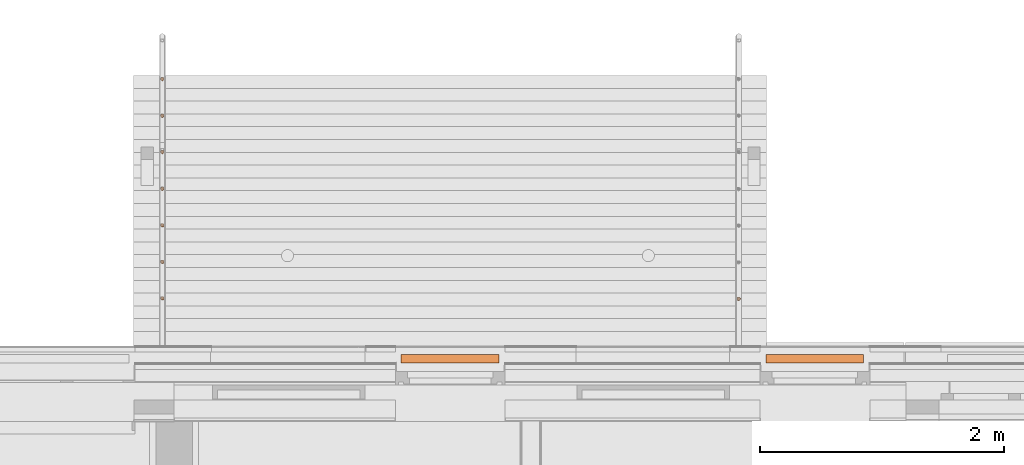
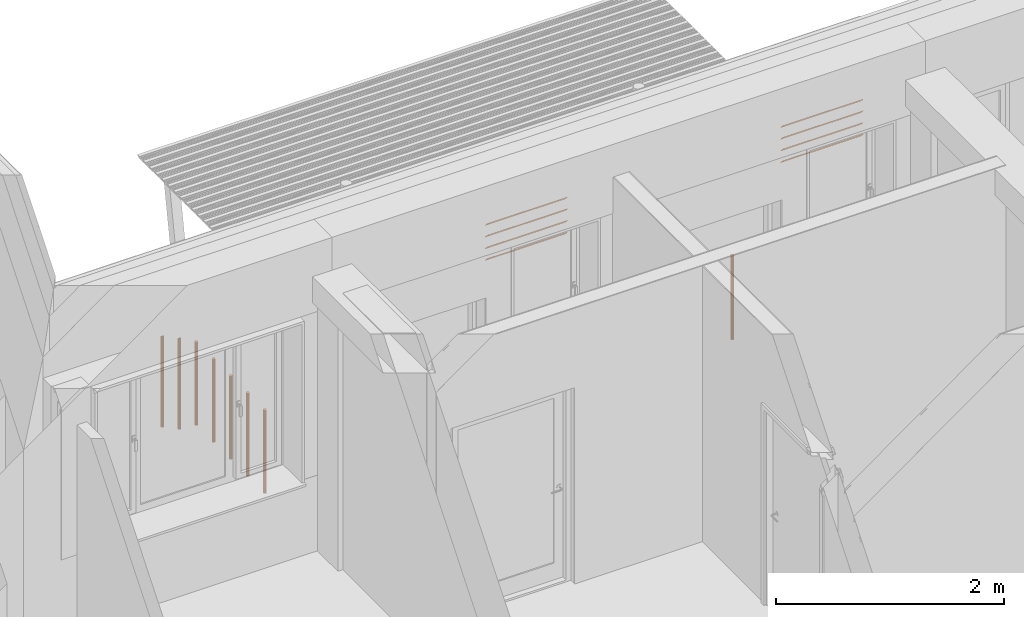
# One storey, part 363 of 418: 10 proxies, 2 elements without a shape of their own.
"""IFC2X3 building model written with IfcOpenShell, lengths in millimetres."""

from ifc_helpers import new_model, entity, si_unit, converted_unit, derived_unit, money_unit, direction, frame, origin_with_axes, place, context, subcontext, project, spatial, faceted_brep, source, transform, mapped, material, type_object, element, aggregate, save


model = new_model("IFC2X3")

# Units and contexts
model_context = context("Model", 3, precision=0.01, world=origin_with_axes(), true_north=direction((0.0, 1.0)))
body_context = subcontext(model_context, "Body", "Model", "MODEL_VIEW")
ifc_project = project(units=[si_unit("LENGTHUNIT", "METRE", prefix="MILLI"), si_unit("AREAUNIT", "SQUARE_METRE"), si_unit("VOLUMEUNIT", "CUBIC_METRE"), converted_unit("PLANEANGLEUNIT", "DEGREE", entity("IfcPlaneAngleMeasure", 0.0174532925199), si_unit("PLANEANGLEUNIT", "RADIAN"), dimensions=[0, 0, 0, 0, 0, 0, 0]), si_unit("SOLIDANGLEUNIT", "STERADIAN"), money_unit("EUR"), converted_unit("TIMEUNIT", "Year", entity("IfcTimeMeasure", 31556926.0), si_unit("TIMEUNIT", "SECOND"), dimensions=[0, 0, 1, 0, 0, 0, 0]), si_unit("MASSUNIT", "GRAM", prefix="KILO"), si_unit("THERMODYNAMICTEMPERATUREUNIT", "DEGREE_CELSIUS"), si_unit("LUMINOUSINTENSITYUNIT", "LUMEN"), si_unit("ENERGYUNIT", "JOULE", prefix="MEGA"), derived_unit("THERMALCONDUCTANCEUNIT", [(si_unit("POWERUNIT", "WATT"), 1), (si_unit("LENGTHUNIT", "METRE"), -1), (si_unit("THERMODYNAMICTEMPERATUREUNIT", "KELVIN"), -1)]), derived_unit("SPECIFICHEATCAPACITYUNIT", [(si_unit("ENERGYUNIT", "JOULE"), 1), (si_unit("MASSUNIT", "GRAM", prefix="KILO"), -1), (si_unit("THERMODYNAMICTEMPERATUREUNIT", "KELVIN"), -1)]), derived_unit("MASSDENSITYUNIT", [(si_unit("MASSUNIT", "GRAM", prefix="KILO"), 1), (si_unit("VOLUMEUNIT", "CUBIC_METRE"), -1)])], contexts=[model_context])

# Site, building, storey
site_placement = place(None, origin_with_axes())
site = spatial("IfcSite", under=ifc_project, at=site_placement, Name="Paldiski mnt 245/1, Tallinn, Harjumaa", CompositionType="COMPLEX")
building_placement = place(site_placement, origin_with_axes())
building = spatial("IfcBuilding", under=site, at=building_placement, Name="RKAS Hoone üldnimetus (kasutust iseloomustav) -> IFC Project Manager -> SOLIBRI", CompositionType="ELEMENT")
storey_placement = place(building_placement, origin_with_axes())
storey = spatial("IfcBuildingStorey", under=building, at=storey_placement, Name="Esimene korrus", CompositionType="ELEMENT", Elevation=0.0)

# Proxies
building_element_proxy_type_1 = type_object("IfcBuildingElementProxyType", Name="Solar Shade Straight 17", PredefinedType="NOTDEFINED")
shared_shape_1 = source(origin_with_axes(), body_context, "Body", "Brep", [
    faceted_brep([(-50.0, -24.0727513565, 78.7867965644), (-850.0, -24.0727513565, 78.7867965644), (-850.0, -34.6793530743, 91.7504208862), (-50.0, -34.6793530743, 91.7504208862), (-50.0, -14.6446609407, 64.6446609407), (-850.0, -14.6446609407, 64.6446609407), (-850.0, -28.7867965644, 74.0727513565), (-850.0, -41.7504208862, 84.6793530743), (-850.0, -65.3206469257, 108.249579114), (-850.0, -75.9272486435, 121.213203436), (-850.0, -85.3553390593, 135.355339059), (-850.0, -71.2132034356, 125.927248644), (-850.0, -58.2495791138, 115.320646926), (-50.0, -58.2495791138, 115.320646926), (-50.0, -71.2132034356, 125.927248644), (-50.0, -85.3553390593, 135.355339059), (-50.0, -75.9272486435, 121.213203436), (-50.0, -65.3206469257, 108.249579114), (-50.0, -41.7504208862, 84.6793530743), (-50.0, -28.7867965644, 74.0727513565)], [[[0, 1, 2, 3]], [[4, 5, 1, 0]], [[1, 5, 6, 7, 8, 9, 10, 11, 12, 2]], [[3, 2, 12, 13]], [[0, 3, 13, 14, 15, 16, 17, 18, 19, 4]], [[19, 6, 5, 4]], [[18, 7, 6, 19]], [[17, 8, 7, 18]], [[16, 9, 8, 17]], [[15, 10, 9, 16]], [[14, 11, 10, 15]], [[13, 12, 11, 14]]]),
    faceted_brep([(-50.0, -24.0727513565, 203.786796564), (-850.0, -24.0727513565, 203.786796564), (-850.0, -34.6793530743, 216.750420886), (-50.0, -34.6793530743, 216.750420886), (-50.0, -14.6446609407, 189.644660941), (-850.0, -14.6446609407, 189.644660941), (-850.0, -28.7867965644, 199.072751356), (-850.0, -41.7504208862, 209.679353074), (-850.0, -65.3206469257, 233.249579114), (-850.0, -75.9272486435, 246.213203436), (-850.0, -85.3553390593, 260.355339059), (-850.0, -71.2132034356, 250.927248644), (-850.0, -58.2495791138, 240.320646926), (-50.0, -58.2495791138, 240.320646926), (-50.0, -71.2132034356, 250.927248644), (-50.0, -85.3553390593, 260.355339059), (-50.0, -75.9272486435, 246.213203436), (-50.0, -65.3206469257, 233.249579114), (-50.0, -41.7504208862, 209.679353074), (-50.0, -28.7867965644, 199.072751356)], [[[0, 1, 2, 3]], [[4, 5, 1, 0]], [[1, 5, 6, 7, 8, 9, 10, 11, 12, 2]], [[3, 2, 12, 13]], [[0, 3, 13, 14, 15, 16, 17, 18, 19, 4]], [[19, 6, 5, 4]], [[18, 7, 6, 19]], [[17, 8, 7, 18]], [[16, 9, 8, 17]], [[15, 10, 9, 16]], [[14, 11, 10, 15]], [[13, 12, 11, 14]]]),
    faceted_brep([(-50.0, -24.0727513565, 328.786796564), (-850.0, -24.0727513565, 328.786796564), (-850.0, -34.6793530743, 341.750420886), (-50.0, -34.6793530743, 341.750420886), (-50.0, -14.6446609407, 314.644660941), (-850.0, -14.6446609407, 314.644660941), (-850.0, -28.7867965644, 324.072751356), (-850.0, -41.7504208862, 334.679353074), (-850.0, -65.3206469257, 358.249579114), (-850.0, -75.9272486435, 371.213203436), (-850.0, -85.3553390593, 385.355339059), (-850.0, -71.2132034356, 375.927248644), (-850.0, -58.2495791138, 365.320646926), (-50.0, -58.2495791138, 365.320646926), (-50.0, -71.2132034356, 375.927248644), (-50.0, -85.3553390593, 385.355339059), (-50.0, -75.9272486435, 371.213203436), (-50.0, -65.3206469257, 358.249579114), (-50.0, -41.7504208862, 334.679353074), (-50.0, -28.7867965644, 324.072751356)], [[[0, 1, 2, 3]], [[4, 5, 1, 0]], [[1, 5, 6, 7, 8, 9, 10, 11, 12, 2]], [[3, 2, 12, 13]], [[0, 3, 13, 14, 15, 16, 17, 18, 19, 4]], [[19, 6, 5, 4]], [[18, 7, 6, 19]], [[17, 8, 7, 18]], [[16, 9, 8, 17]], [[15, 10, 9, 16]], [[14, 11, 10, 15]], [[13, 12, 11, 14]]]),
    faceted_brep([(-50.0, -24.0727513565, 453.786796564), (-850.0, -24.0727513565, 453.786796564), (-850.0, -34.6793530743, 466.750420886), (-50.0, -34.6793530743, 466.750420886), (-50.0, -14.6446609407, 439.644660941), (-850.0, -14.6446609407, 439.644660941), (-850.0, -28.7867965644, 449.072751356), (-850.0, -41.7504208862, 459.679353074), (-850.0, -65.3206469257, 483.249579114), (-850.0, -75.9272486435, 496.213203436), (-850.0, -85.3553390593, 510.355339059), (-850.0, -71.2132034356, 500.927248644), (-850.0, -58.2495791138, 490.320646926), (-50.0, -58.2495791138, 490.320646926), (-50.0, -71.2132034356, 500.927248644), (-50.0, -85.3553390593, 510.355339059), (-50.0, -75.9272486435, 496.213203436), (-50.0, -65.3206469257, 483.249579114), (-50.0, -41.7504208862, 459.679353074), (-50.0, -28.7867965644, 449.072751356)], [[[0, 1, 2, 3]], [[4, 5, 1, 0]], [[1, 5, 6, 7, 8, 9, 10, 11, 12, 2]], [[3, 2, 12, 13]], [[0, 3, 13, 14, 15, 16, 17, 18, 19, 4]], [[19, 6, 5, 4]], [[18, 7, 6, 19]], [[17, 8, 7, 18]], [[16, 9, 8, 17]], [[15, 10, 9, 16]], [[14, 11, 10, 15]], [[13, 12, 11, 14]]]),
])
for number, where, z_axis, x_axis in (
    (1, (-35738.0, 456.966991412, 1999.54563517), (0.0, 0.0, 1.0), (1.0, 0.0, 0.0)),
    (2, (-38728.0, 456.966991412, 1999.54563517), (0.0, 0.0, 1.0), (1.0, 0.0, 0.0)),
):
    element("IfcBuildingElementProxy", number, at=place(storey_placement, frame(where, z_axis=z_axis, x_axis=x_axis)), inside=storey, type_object=building_element_proxy_type_1, Name="Päikesezalusii", context=body_context, shape_type="MappedRepresentation", body=[
        mapped(shared_shape_1, transform((0.0, 0.0, 0.0))),
    ])

building_element_proxy_type_2 = type_object("IfcBuildingElementProxyType", Name="Railing Type", PredefinedType="NOTDEFINED")
proxy_1_placement = place(storey_placement, frame((-36811.0, 460.000000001, -500.846302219), z_axis=(0.0, 0.0, 1.0), x_axis=(1.0, 0.0, 0.0)))
proxy_1 = element("IfcBuildingElementProxy", 3, at=proxy_1_placement, inside=storey, type_object=building_element_proxy_type_2, Name="Trepipiire")
ifc_material = material(Name="RAL7016")
building_element_proxy_type_3 = type_object("IfcBuildingElementProxyType", Name="IfcBuildingElementProxy", PredefinedType="NOTDEFINED")
shared_shape_2 = source(origin_with_axes(), body_context, "Body", "Brep", [
    faceted_brep([(0.0, -15.0, 0.0), (2.604722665, -14.7721162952, 0.0), (2.604722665, -14.7721162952, 900.0), (0.0, -15.0, 900.0), (-2.604722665, -14.7721162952, 0.0), (-5.13030214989, -14.0953893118, 0.0), (-7.5, -12.9903810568, 0.0), (-9.6418141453, -11.4906666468, 0.0), (-11.4906666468, -9.6418141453, 0.0), (-12.9903810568, -7.5, 0.0), (-14.0953893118, -5.13030214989, 0.0), (-14.7721162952, -2.604722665, 0.0), (-15.0, 0.0, 0.0), (-14.7721162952, 2.604722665, 0.0), (-14.0953893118, 5.13030214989, 0.0), (-12.9903810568, 7.5, 0.0), (-11.4906666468, 9.6418141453, 0.0), (-9.6418141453, 11.4906666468, 0.0), (-7.5, 12.9903810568, 0.0), (-5.13030214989, 14.0953893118, 0.0), (-2.604722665, 14.7721162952, 0.0), (0.0, 15.0, 0.0), (2.604722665, 14.7721162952, 0.0), (5.13030214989, 14.0953893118, 0.0), (7.5, 12.9903810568, 0.0), (9.6418141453, 11.4906666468, 0.0), (11.4906666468, 9.6418141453, 0.0), (12.9903810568, 7.5, 0.0), (14.0953893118, 5.13030214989, 0.0), (14.7721162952, 2.604722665, 0.0), (15.0, 0.0, 0.0), (14.7721162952, -2.604722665, 0.0), (14.0953893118, -5.13030214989, 0.0), (12.9903810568, -7.5, 0.0), (11.4906666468, -9.6418141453, 0.0), (9.6418141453, -11.4906666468, 0.0), (7.5, -12.9903810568, 0.0), (5.13030214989, -14.0953893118, 0.0), (5.13030214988, -14.0953893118, 900.0), (7.49999999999, -12.9903810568, 900.0), (9.64181414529, -11.4906666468, 900.0), (11.4906666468, -9.6418141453, 900.0), (12.9903810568, -7.5, 900.0), (14.0953893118, -5.13030214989, 900.0), (14.7721162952, -2.60472266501, 900.0), (15.0, 0.0, 900.0), (14.7721162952, 2.604722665, 900.0), (14.0953893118, 5.13030214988, 900.0), (12.9903810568, 7.5, 900.0), (11.4906666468, 9.64181414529, 900.0), (9.64181414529, 11.4906666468, 900.0), (7.49999999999, 12.9903810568, 900.0), (5.13030214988, 14.0953893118, 900.0), (2.604722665, 14.7721162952, 900.0), (0.0, 15.0, 900.0), (-2.60472266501, 14.7721162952, 900.0), (-5.13030214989, 14.0953893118, 900.0), (-7.50000000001, 12.9903810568, 900.0), (-9.64181414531, 11.4906666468, 900.0), (-11.4906666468, 9.64181414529, 900.0), (-12.9903810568, 7.5, 900.0), (-14.0953893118, 5.13030214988, 900.0), (-14.7721162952, 2.604722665, 900.0), (-15.0, 0.0, 900.0), (-14.7721162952, -2.60472266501, 900.0), (-14.0953893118, -5.13030214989, 900.0), (-12.9903810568, -7.5, 900.0), (-11.4906666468, -9.6418141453, 900.0), (-9.64181414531, -11.4906666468, 900.0), (-7.50000000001, -12.9903810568, 900.0), (-5.13030214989, -14.0953893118, 900.0), (-2.60472266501, -14.7721162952, 900.0)], [[[0, 1, 2, 3]], [[0, 4, 5, 6, 7, 8, 9, 10, 11, 12, 13, 14, 15, 16, 17, 18, 19, 20, 21, 22, 23, 24, 25, 26, 27, 28, 29, 30, 31, 32, 33, 34, 35, 36, 37, 1]], [[1, 37, 38, 2]], [[3, 2, 38, 39, 40, 41, 42, 43, 44, 45, 46, 47, 48, 49, 50, 51, 52, 53, 54, 55, 56, 57, 58, 59, 60, 61, 62, 63, 64, 65, 66, 67, 68, 69, 70, 71]], [[4, 0, 3, 71]], [[5, 4, 71, 70]], [[6, 5, 70, 69]], [[7, 6, 69, 68]], [[8, 7, 68, 67]], [[9, 8, 67, 66]], [[10, 9, 66, 65]], [[11, 10, 65, 64]], [[12, 11, 64, 63]], [[13, 12, 63, 62]], [[14, 13, 62, 61]], [[15, 14, 61, 60]], [[16, 15, 60, 59]], [[17, 16, 59, 58]], [[18, 17, 58, 57]], [[19, 18, 57, 56]], [[20, 19, 56, 55]], [[21, 20, 55, 54]], [[22, 21, 54, 53]], [[23, 22, 53, 52]], [[24, 23, 52, 51]], [[25, 24, 51, 50]], [[26, 25, 50, 49]], [[27, 26, 49, 48]], [[28, 27, 48, 47]], [[29, 28, 47, 46]], [[30, 29, 46, 45]], [[31, 30, 45, 44]], [[32, 31, 44, 43]], [[33, 32, 43, 42]], [[34, 33, 42, 41]], [[35, 34, 41, 40]], [[36, 35, 40, 39]], [[37, 36, 39, 38]]]),
])
proxy_2_placement = place(proxy_1_placement, frame((0.0, 438.479666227, 480.846302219), z_axis=(0.0, 0.0, 1.0), x_axis=(1.0, 0.0, 0.0)))
proxy_2 = element("IfcBuildingElementProxy", 4, at=proxy_2_placement, type_object=building_element_proxy_type_3, material=ifc_material, Name="SISEPOST - 001", context=body_context, shape_type="MappedRepresentation", body=[
    mapped(shared_shape_2, transform((0.0, 0.0, 0.0))),
])
aggregate(proxy_1, [proxy_2])

proxy_3_placement = place(storey_placement, frame((-41536.0, 460.000000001, -500.846302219), z_axis=(0.0, 0.0, 1.0), x_axis=(1.0, 0.0, 0.0)))
proxy_3 = element("IfcBuildingElementProxy", 5, at=proxy_3_placement, inside=storey, type_object=building_element_proxy_type_2, Name="Trepipiire")
shared_shape_3 = source(origin_with_axes(), body_context, "Body", "Brep", [
    faceted_brep([(0.0, -15.0, 0.0), (2.604722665, -14.7721162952, 0.0), (2.604722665, -14.7721162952, 978.321357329), (0.0, -15.0, 978.44307705), (-2.604722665, -14.7721162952, 0.0), (-5.13030214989, -14.0953893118, 0.0), (-7.5, -12.9903810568, 0.0), (-9.6418141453, -11.4906666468, 0.0), (-11.4906666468, -9.6418141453, 0.0), (-12.9903810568, -7.5, 0.0), (-14.0953893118, -5.13030214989, 0.0), (-14.7721162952, -2.604722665, 0.0), (-15.0, 0.0, 0.0), (-14.7721162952, 2.604722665, 0.0), (-14.0953893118, 5.13030214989, 0.0), (-12.9903810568, 7.5, 0.0), (-11.4906666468, 9.6418141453, 0.0), (-9.6418141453, 11.4906666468, 0.0), (-7.5, 12.9903810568, 0.0), (-5.13030214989, 14.0953893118, 0.0), (-2.604722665, 14.7721162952, 0.0), (0.0, 15.0, 0.0), (2.604722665, 14.7721162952, 0.0), (5.13030214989, 14.0953893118, 0.0), (7.5, 12.9903810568, 0.0), (9.6418141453, 11.4906666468, 0.0), (11.4906666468, 9.6418141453, 0.0), (12.9903810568, 7.5, 0.0), (14.0953893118, 5.13030214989, 0.0), (14.7721162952, 2.604722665, 0.0), (15.0, 0.0, 0.0), (14.7721162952, -2.604722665, 0.0), (14.0953893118, -5.13030214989, 0.0), (12.9903810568, -7.5, 0.0), (11.4906666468, -9.6418141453, 0.0), (9.6418141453, -11.4906666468, 0.0), (7.5, -12.9903810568, 0.0), (5.13030214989, -14.0953893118, 0.0), (5.13030214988, -14.0953893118, 977.959896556), (7.5, -12.9903810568, 977.369677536), (9.6418141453, -11.4906666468, 976.568633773), (11.4906666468, -9.6418141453, 975.581104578), (12.9903810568, -7.5, 974.437095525), (14.0953893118, -5.13030214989, 973.171366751), (14.7721162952, -2.60472266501, 971.822376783), (15.0, 0.0, 970.431114), (14.7721162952, 2.604722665, 969.039851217), (14.0953893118, 5.13030214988, 967.690861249), (12.9903810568, 7.5, 966.425132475), (11.4906666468, 9.64181414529, 965.281123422), (9.6418141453, 11.4906666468, 964.293594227), (7.5, 12.9903810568, 963.492550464), (5.13030214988, 14.0953893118, 962.902331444), (2.604722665, 14.7721162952, 962.540870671), (0.0, 15.0, 962.41915095), (-2.604722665, 14.7721162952, 962.540870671), (-5.13030214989, 14.0953893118, 962.902331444), (-7.5, 12.9903810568, 963.492550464), (-9.6418141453, 11.4906666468, 964.293594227), (-11.4906666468, 9.64181414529, 965.281123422), (-12.9903810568, 7.5, 966.425132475), (-14.0953893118, 5.13030214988, 967.690861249), (-14.7721162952, 2.604722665, 969.039851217), (-15.0, 0.0, 970.431114), (-14.7721162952, -2.60472266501, 971.822376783), (-14.0953893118, -5.13030214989, 973.171366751), (-12.9903810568, -7.5, 974.437095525), (-11.4906666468, -9.6418141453, 975.581104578), (-9.6418141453, -11.4906666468, 976.568633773), (-7.5, -12.9903810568, 977.369677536), (-5.13030214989, -14.0953893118, 977.959896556), (-2.604722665, -14.7721162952, 978.321357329)], [[[0, 1, 2, 3]], [[0, 4, 5, 6, 7, 8, 9, 10, 11, 12, 13, 14, 15, 16, 17, 18, 19, 20, 21, 22, 23, 24, 25, 26, 27, 28, 29, 30, 31, 32, 33, 34, 35, 36, 37, 1]], [[1, 37, 38, 2]], [[3, 2, 38, 39, 40, 41, 42, 43, 44, 45, 46, 47, 48, 49, 50, 51, 52, 53, 54, 55, 56, 57, 58, 59, 60, 61, 62, 63, 64, 65, 66, 67, 68, 69, 70, 71]], [[4, 0, 3, 71]], [[5, 4, 71, 70]], [[6, 5, 70, 69]], [[7, 6, 69, 68]], [[8, 7, 68, 67]], [[9, 8, 67, 66]], [[10, 9, 66, 65]], [[11, 10, 65, 64]], [[12, 11, 64, 63]], [[13, 12, 63, 62]], [[14, 13, 62, 61]], [[15, 14, 61, 60]], [[16, 15, 60, 59]], [[17, 16, 59, 58]], [[18, 17, 58, 57]], [[19, 18, 57, 56]], [[20, 19, 56, 55]], [[21, 20, 55, 54]], [[22, 21, 54, 53]], [[23, 22, 53, 52]], [[24, 23, 52, 51]], [[25, 24, 51, 50]], [[26, 25, 50, 49]], [[27, 26, 49, 48]], [[28, 27, 48, 47]], [[29, 28, 47, 46]], [[30, 29, 46, 45]], [[31, 30, 45, 44]], [[32, 31, 44, 43]], [[33, 32, 43, 42]], [[34, 33, 42, 41]], [[35, 34, 41, 40]], [[36, 35, 40, 39]], [[37, 36, 39, 38]]]),
])
proxy_4_placement = place(proxy_3_placement, frame((0.0, 1940.34235828, 265.910430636), z_axis=(0.0, 0.0, 1.0), x_axis=(1.0, 0.0, 0.0)))
proxy_4 = element("IfcBuildingElementProxy", 6, at=proxy_4_placement, type_object=building_element_proxy_type_3, material=ifc_material, Name="SISEPOST - 001", context=body_context, shape_type="MappedRepresentation", body=[
    mapped(shared_shape_3, transform((0.0, 0.0, 0.0))),
])
shared_shape_4 = source(origin_with_axes(), body_context, "Body", "Brep", [
    faceted_brep([(0.0, -15.0, 0.0), (2.604722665, -14.7721162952, 0.0), (2.604722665, -14.7721162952, 978.082096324), (0.0, -15.0, 978.203816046), (-2.604722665, -14.7721162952, 0.0), (-5.13030214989, -14.0953893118, 0.0), (-7.5, -12.9903810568, 0.0), (-9.6418141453, -11.4906666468, 0.0), (-11.4906666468, -9.6418141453, 0.0), (-12.9903810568, -7.5, 0.0), (-14.0953893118, -5.13030214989, 0.0), (-14.7721162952, -2.604722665, 0.0), (-15.0, 0.0, 0.0), (-14.7721162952, 2.604722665, 0.0), (-14.0953893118, 5.13030214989, 0.0), (-12.9903810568, 7.5, 0.0), (-11.4906666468, 9.6418141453, 0.0), (-9.6418141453, 11.4906666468, 0.0), (-7.5, 12.9903810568, 0.0), (-5.13030214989, 14.0953893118, 0.0), (-2.604722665, 14.7721162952, 0.0), (0.0, 15.0, 0.0), (2.604722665, 14.7721162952, 0.0), (5.13030214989, 14.0953893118, 0.0), (7.5, 12.9903810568, 0.0), (9.6418141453, 11.4906666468, 0.0), (11.4906666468, 9.6418141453, 0.0), (12.9903810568, 7.5, 0.0), (14.0953893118, 5.13030214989, 0.0), (14.7721162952, 2.604722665, 0.0), (15.0, 0.0, 0.0), (14.7721162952, -2.604722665, 0.0), (14.0953893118, -5.13030214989, 0.0), (12.9903810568, -7.5, 0.0), (11.4906666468, -9.6418141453, 0.0), (9.6418141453, -11.4906666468, 0.0), (7.5, -12.9903810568, 0.0), (5.13030214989, -14.0953893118, 0.0), (5.13030214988, -14.0953893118, 977.720635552), (7.5, -12.9903810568, 977.130416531), (9.6418141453, -11.4906666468, 976.329372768), (11.4906666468, -9.6418141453, 975.341843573), (12.9903810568, -7.5, 974.19783452), (14.0953893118, -5.13030214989, 972.932105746), (14.7721162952, -2.60472266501, 971.583115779), (15.0, 0.0, 970.191852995), (14.7721162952, 2.604722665, 968.800590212), (14.0953893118, 5.13030214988, 967.451600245), (12.9903810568, 7.5, 966.18587147), (11.4906666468, 9.64181414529, 965.041862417), (9.6418141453, 11.4906666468, 964.054333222), (7.5, 12.9903810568, 963.25328946), (5.13030214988, 14.0953893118, 962.663070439), (2.604722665, 14.7721162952, 962.301609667), (0.0, 15.0, 962.179889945), (-2.604722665, 14.7721162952, 962.301609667), (-5.13030214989, 14.0953893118, 962.663070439), (-7.5, 12.9903810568, 963.25328946), (-9.6418141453, 11.4906666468, 964.054333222), (-11.4906666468, 9.64181414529, 965.041862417), (-12.9903810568, 7.5, 966.18587147), (-14.0953893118, 5.13030214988, 967.451600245), (-14.7721162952, 2.604722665, 968.800590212), (-15.0, 0.0, 970.191852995), (-14.7721162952, -2.60472266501, 971.583115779), (-14.0953893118, -5.13030214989, 972.932105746), (-12.9903810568, -7.5, 974.19783452), (-11.4906666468, -9.6418141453, 975.341843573), (-9.6418141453, -11.4906666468, 976.329372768), (-7.5, -12.9903810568, 977.130416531), (-5.13030214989, -14.0953893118, 977.720635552), (-2.604722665, -14.7721162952, 978.082096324)], [[[0, 1, 2, 3]], [[0, 4, 5, 6, 7, 8, 9, 10, 11, 12, 13, 14, 15, 16, 17, 18, 19, 20, 21, 22, 23, 24, 25, 26, 27, 28, 29, 30, 31, 32, 33, 34, 35, 36, 37, 1]], [[1, 37, 38, 2]], [[3, 2, 38, 39, 40, 41, 42, 43, 44, 45, 46, 47, 48, 49, 50, 51, 52, 53, 54, 55, 56, 57, 58, 59, 60, 61, 62, 63, 64, 65, 66, 67, 68, 69, 70, 71]], [[4, 0, 3, 71]], [[5, 4, 71, 70]], [[6, 5, 70, 69]], [[7, 6, 69, 68]], [[8, 7, 68, 67]], [[9, 8, 67, 66]], [[10, 9, 66, 65]], [[11, 10, 65, 64]], [[12, 11, 64, 63]], [[13, 12, 63, 62]], [[14, 13, 62, 61]], [[15, 14, 61, 60]], [[16, 15, 60, 59]], [[17, 16, 59, 58]], [[18, 17, 58, 57]], [[19, 18, 57, 56]], [[20, 19, 56, 55]], [[21, 20, 55, 54]], [[22, 21, 54, 53]], [[23, 22, 53, 52]], [[24, 23, 52, 51]], [[25, 24, 51, 50]], [[26, 25, 50, 49]], [[27, 26, 49, 48]], [[28, 27, 48, 47]], [[29, 28, 47, 46]], [[30, 29, 46, 45]], [[31, 30, 45, 44]], [[32, 31, 44, 43]], [[33, 32, 43, 42]], [[34, 33, 42, 41]], [[35, 34, 41, 40]], [[36, 35, 40, 39]], [[37, 36, 39, 38]]]),
])
proxy_5_placement = place(proxy_3_placement, frame((0.0, 2240.34235828, 105.910430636), z_axis=(0.0, 0.0, 1.0), x_axis=(1.0, 0.0, 0.0)))
proxy_5 = element("IfcBuildingElementProxy", 7, at=proxy_5_placement, type_object=building_element_proxy_type_3, material=ifc_material, Name="SISEPOST - 001", context=body_context, shape_type="MappedRepresentation", body=[
    mapped(shared_shape_4, transform((0.0, 0.0, 0.0))),
])
shared_shape_5 = source(origin_with_axes(), body_context, "Body", "Brep", [
    faceted_brep([(0.0, -15.0, 0.0), (2.604722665, -14.7721162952, 0.0), (2.604722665, -14.7721162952, 890.483323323), (0.0, -15.0, 890.483323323), (-2.604722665, -14.7721162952, 0.0), (-5.13030214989, -14.0953893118, 0.0), (-7.5, -12.9903810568, 0.0), (-9.6418141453, -11.4906666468, 0.0), (-11.4906666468, -9.6418141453, 0.0), (-12.9903810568, -7.5, 0.0), (-14.0953893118, -5.13030214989, 0.0), (-14.7721162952, -2.604722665, 0.0), (-15.0, 0.0, 0.0), (-14.7721162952, 2.604722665, 0.0), (-14.0953893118, 5.13030214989, 0.0), (-12.9903810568, 7.5, 0.0), (-11.4906666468, 9.6418141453, 0.0), (-9.6418141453, 11.4906666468, 0.0), (-7.5, 12.9903810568, 0.0), (-5.13030214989, 14.0953893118, 0.0), (-2.604722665, 14.7721162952, 0.0), (0.0, 15.0, 0.0), (2.604722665, 14.7721162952, 0.0), (5.13030214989, 14.0953893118, 0.0), (7.5, 12.9903810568, 0.0), (9.6418141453, 11.4906666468, 0.0), (11.4906666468, 9.6418141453, 0.0), (12.9903810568, 7.5, 0.0), (14.0953893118, 5.13030214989, 0.0), (14.7721162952, 2.604722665, 0.0), (15.0, 0.0, 0.0), (14.7721162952, -2.604722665, 0.0), (14.0953893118, -5.13030214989, 0.0), (12.9903810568, -7.5, 0.0), (11.4906666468, -9.6418141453, 0.0), (9.6418141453, -11.4906666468, 0.0), (7.5, -12.9903810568, 0.0), (5.13030214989, -14.0953893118, 0.0), (5.13030214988, -14.0953893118, 890.483323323), (7.5, -12.9903810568, 890.483323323), (9.6418141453, -11.4906666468, 890.483323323), (11.4906666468, -9.6418141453, 890.483323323), (12.9903810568, -7.5, 890.483323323), (14.0953893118, -5.13030214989, 890.483323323), (14.7721162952, -2.60472266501, 890.483323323), (15.0, 0.0, 890.483323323), (14.7721162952, 2.604722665, 890.483323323), (14.0953893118, 5.13030214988, 890.483323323), (12.9903810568, 7.5, 890.483323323), (11.4906666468, 9.64181414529, 890.483323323), (9.6418141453, 11.4906666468, 890.483323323), (7.5, 12.9903810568, 890.483323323), (5.13030214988, 14.0953893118, 890.483323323), (2.604722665, 14.7721162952, 890.483323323), (0.0, 15.0, 890.483323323), (-2.604722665, 14.7721162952, 890.483323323), (-5.13030214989, 14.0953893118, 890.483323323), (-7.5, 12.9903810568, 890.483323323), (-9.6418141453, 11.4906666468, 890.483323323), (-11.4906666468, 9.64181414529, 890.483323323), (-12.9903810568, 7.5, 890.483323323), (-14.0953893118, 5.13030214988, 890.483323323), (-14.7721162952, 2.604722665, 890.483323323), (-15.0, 0.0, 890.483323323), (-14.7721162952, -2.60472266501, 890.483323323), (-14.0953893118, -5.13030214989, 890.483323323), (-12.9903810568, -7.5, 890.483323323), (-11.4906666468, -9.6418141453, 890.483323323), (-9.6418141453, -11.4906666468, 890.483323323), (-7.5, -12.9903810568, 890.483323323), (-5.13030214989, -14.0953893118, 890.483323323), (-2.604722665, -14.7721162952, 890.483323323)], [[[0, 1, 2, 3]], [[0, 4, 5, 6, 7, 8, 9, 10, 11, 12, 13, 14, 15, 16, 17, 18, 19, 20, 21, 22, 23, 24, 25, 26, 27, 28, 29, 30, 31, 32, 33, 34, 35, 36, 37, 1]], [[1, 37, 38, 2]], [[3, 2, 38, 39, 40, 41, 42, 43, 44, 45, 46, 47, 48, 49, 50, 51, 52, 53, 54, 55, 56, 57, 58, 59, 60, 61, 62, 63, 64, 65, 66, 67, 68, 69, 70, 71]], [[4, 0, 3, 71]], [[5, 4, 71, 70]], [[6, 5, 70, 69]], [[7, 6, 69, 68]], [[8, 7, 68, 67]], [[9, 8, 67, 66]], [[10, 9, 66, 65]], [[11, 10, 65, 64]], [[12, 11, 64, 63]], [[13, 12, 63, 62]], [[14, 13, 62, 61]], [[15, 14, 61, 60]], [[16, 15, 60, 59]], [[17, 16, 59, 58]], [[18, 17, 58, 57]], [[19, 18, 57, 56]], [[20, 19, 56, 55]], [[21, 20, 55, 54]], [[22, 21, 54, 53]], [[23, 22, 53, 52]], [[24, 23, 52, 51]], [[25, 24, 51, 50]], [[26, 25, 50, 49]], [[27, 26, 49, 48]], [[28, 27, 48, 47]], [[29, 28, 47, 46]], [[30, 29, 46, 45]], [[31, 30, 45, 44]], [[32, 31, 44, 43]], [[33, 32, 43, 42]], [[34, 33, 42, 41]], [[35, 34, 41, 40]], [[36, 35, 40, 39]], [[37, 36, 39, 38]]]),
])
proxy_6_placement = place(proxy_3_placement, frame((0.0, 441.999999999, 490.362978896), z_axis=(0.0, 0.0, 1.0), x_axis=(1.0, 0.0, 0.0)))
proxy_6 = element("IfcBuildingElementProxy", 8, at=proxy_6_placement, type_object=building_element_proxy_type_3, material=ifc_material, Name="SISEPOST - 001", context=body_context, shape_type="MappedRepresentation", body=[
    mapped(shared_shape_5, transform((0.0, 0.0, 0.0))),
])
proxy_7_placement = place(proxy_3_placement, frame((0.0, 1642.0, 490.362978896), z_axis=(0.0, 0.0, 1.0), x_axis=(1.0, 0.0, 0.0)))
proxy_7 = element("IfcBuildingElementProxy", 9, at=proxy_7_placement, type_object=building_element_proxy_type_3, material=ifc_material, Name="SISEPOST - 001", context=body_context, shape_type="MappedRepresentation", body=[
    mapped(shared_shape_5, transform((0.0, 0.0, 0.0))),
])
shared_shape_6 = source(origin_with_axes(), body_context, "Body", "Brep", [
    faceted_brep([(0.0, -15.0, 0.0), (2.604722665, -14.7721162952, 0.0), (2.604722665, -14.7721162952, 890.483323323), (0.0, -15.0, 890.483323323), (-2.604722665, -14.7721162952, 0.0), (-5.13030214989, -14.0953893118, 0.0), (-7.5, -12.9903810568, 0.0), (-9.6418141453, -11.4906666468, 0.0), (-11.4906666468, -9.6418141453, 0.0), (-12.9903810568, -7.5, 0.0), (-14.0953893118, -5.13030214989, 0.0), (-14.7721162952, -2.604722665, 0.0), (-15.0, 0.0, 0.0), (-14.7721162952, 2.604722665, 0.0), (-14.0953893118, 5.13030214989, 0.0), (-12.9903810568, 7.5, 0.0), (-11.4906666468, 9.6418141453, 0.0), (-9.6418141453, 11.4906666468, 0.0), (-7.5, 12.9903810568, 0.0), (-5.13030214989, 14.0953893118, 0.0), (-2.604722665, 14.7721162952, 0.0), (0.0, 15.0, 0.0), (2.604722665, 14.7721162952, 0.0), (5.13030214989, 14.0953893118, 0.0), (7.5, 12.9903810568, 0.0), (9.6418141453, 11.4906666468, 0.0), (11.4906666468, 9.6418141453, 0.0), (12.9903810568, 7.5, 0.0), (14.0953893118, 5.13030214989, 0.0), (14.7721162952, 2.604722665, 0.0), (15.0, 0.0, 0.0), (14.7721162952, -2.604722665, 0.0), (14.0953893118, -5.13030214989, 0.0), (12.9903810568, -7.5, 0.0), (11.4906666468, -9.6418141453, 0.0), (9.6418141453, -11.4906666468, 0.0), (7.5, -12.9903810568, 0.0), (5.13030214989, -14.0953893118, 0.0), (5.13030214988, -14.0953893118, 890.483323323), (7.5, -12.9903810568, 890.483323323), (9.6418141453, -11.4906666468, 890.483323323), (11.4906666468, -9.6418141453, 890.483323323), (12.9903810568, -7.5, 890.483323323), (14.0953893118, -5.13030214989, 890.483323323), (14.7721162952, -2.60472266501, 890.483323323), (15.0, 0.0, 890.483323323), (14.7721162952, 2.604722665, 890.483323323), (14.0953893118, 5.13030214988, 890.483323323), (12.9903810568, 7.5, 890.483323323), (11.4906666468, 9.64181414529, 890.483323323), (9.6418141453, 11.4906666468, 890.483323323), (7.5, 12.9903810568, 890.483323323), (5.13030214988, 14.0953893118, 890.483323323), (2.604722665, 14.7721162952, 890.483323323), (0.0, 15.0, 890.483323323), (-2.604722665, 14.7721162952, 890.483323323), (-5.13030214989, 14.0953893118, 890.483323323), (-7.5, 12.9903810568, 890.483323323), (-9.6418141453, 11.4906666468, 890.483323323), (-11.4906666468, 9.64181414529, 890.483323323), (-12.9903810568, 7.5, 890.483323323), (-14.0953893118, 5.13030214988, 890.483323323), (-14.7721162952, 2.604722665, 890.483323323), (-15.0, 0.0, 890.483323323), (-14.7721162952, -2.60472266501, 890.483323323), (-14.0953893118, -5.13030214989, 890.483323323), (-12.9903810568, -7.5, 890.483323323), (-11.4906666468, -9.6418141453, 890.483323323), (-9.6418141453, -11.4906666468, 890.483323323), (-7.5, -12.9903810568, 890.483323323), (-5.13030214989, -14.0953893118, 890.483323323), (-2.604722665, -14.7721162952, 890.483323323)], [[[0, 1, 2, 3]], [[0, 4, 5, 6, 7, 8, 9, 10, 11, 12, 13, 14, 15, 16, 17, 18, 19, 20, 21, 22, 23, 24, 25, 26, 27, 28, 29, 30, 31, 32, 33, 34, 35, 36, 37, 1]], [[1, 37, 38, 2]], [[3, 2, 38, 39, 40, 41, 42, 43, 44, 45, 46, 47, 48, 49, 50, 51, 52, 53, 54, 55, 56, 57, 58, 59, 60, 61, 62, 63, 64, 65, 66, 67, 68, 69, 70, 71]], [[4, 0, 3, 71]], [[5, 4, 71, 70]], [[6, 5, 70, 69]], [[7, 6, 69, 68]], [[8, 7, 68, 67]], [[9, 8, 67, 66]], [[10, 9, 66, 65]], [[11, 10, 65, 64]], [[12, 11, 64, 63]], [[13, 12, 63, 62]], [[14, 13, 62, 61]], [[15, 14, 61, 60]], [[16, 15, 60, 59]], [[17, 16, 59, 58]], [[18, 17, 58, 57]], [[19, 18, 57, 56]], [[20, 19, 56, 55]], [[21, 20, 55, 54]], [[22, 21, 54, 53]], [[23, 22, 53, 52]], [[24, 23, 52, 51]], [[25, 24, 51, 50]], [[26, 25, 50, 49]], [[27, 26, 49, 48]], [[28, 27, 48, 47]], [[29, 28, 47, 46]], [[30, 29, 46, 45]], [[31, 30, 45, 44]], [[32, 31, 44, 43]], [[33, 32, 43, 42]], [[34, 33, 42, 41]], [[35, 34, 41, 40]], [[36, 35, 40, 39]], [[37, 36, 39, 38]]]),
])
proxy_8_placement = place(proxy_3_placement, frame((0.0, 741.999999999, 490.362978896), z_axis=(0.0, 0.0, 1.0), x_axis=(1.0, 0.0, 0.0)))
proxy_8 = element("IfcBuildingElementProxy", 10, at=proxy_8_placement, type_object=building_element_proxy_type_3, material=ifc_material, Name="SISEPOST - 001", context=body_context, shape_type="MappedRepresentation", body=[
    mapped(shared_shape_6, transform((0.0, 0.0, 0.0))),
])
proxy_9_placement = place(proxy_3_placement, frame((0.0, 1042.0, 490.362978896), z_axis=(0.0, 0.0, 1.0), x_axis=(1.0, 0.0, 0.0)))
proxy_9 = element("IfcBuildingElementProxy", 11, at=proxy_9_placement, type_object=building_element_proxy_type_3, material=ifc_material, Name="SISEPOST - 001", context=body_context, shape_type="MappedRepresentation", body=[
    mapped(shared_shape_6, transform((0.0, 0.0, 0.0))),
])
proxy_10_placement = place(proxy_3_placement, frame((0.0, 1342.0, 490.362978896), z_axis=(0.0, 0.0, 1.0), x_axis=(1.0, 0.0, 0.0)))
proxy_10 = element("IfcBuildingElementProxy", 12, at=proxy_10_placement, type_object=building_element_proxy_type_3, material=ifc_material, Name="SISEPOST - 001", context=body_context, shape_type="MappedRepresentation", body=[
    mapped(shared_shape_6, transform((0.0, 0.0, 0.0))),
])
aggregate(proxy_3, [proxy_6, proxy_8, proxy_9, proxy_10, proxy_7, proxy_4, proxy_5])

save(model, "model.ifc")
